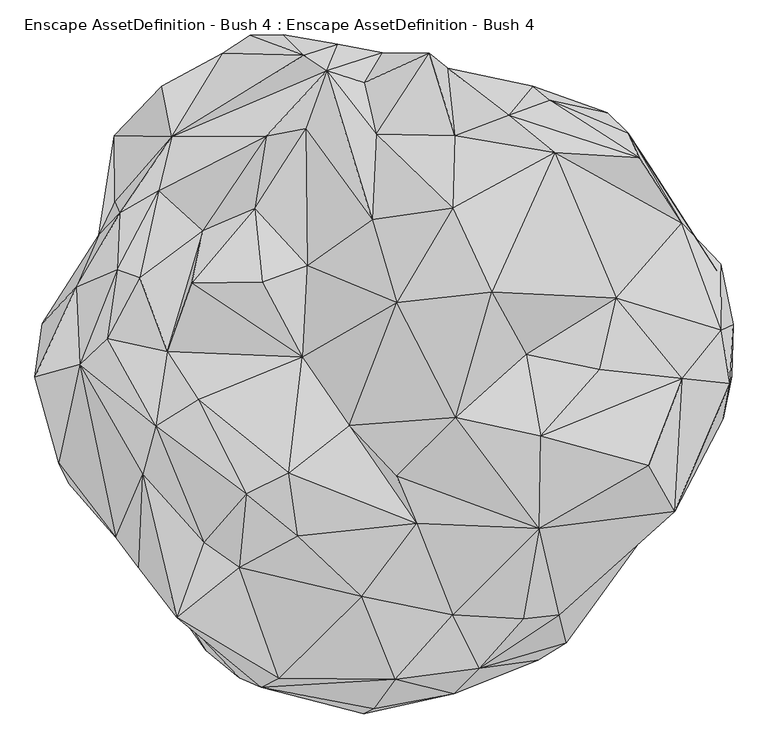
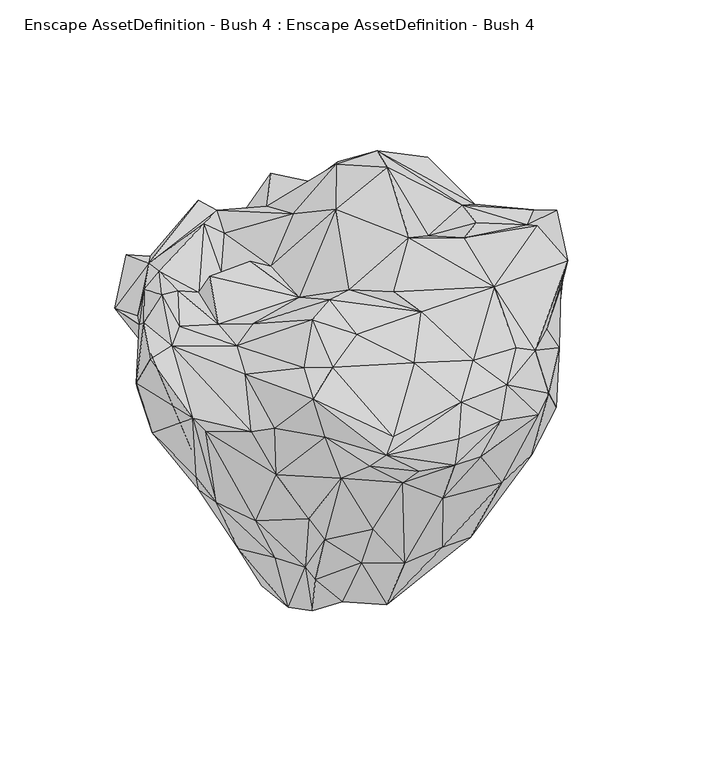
"""IFC4 building model written with IfcOpenShell, lengths in millimetres: geographic element geometry, Enscape AssetDefinition - Bush 4 : Enscape AssetDefinition - Bush 4."""

from ifc_helpers import new_model, si_unit, origin, place, context, project, spatial, faceted_brep, source, transform, mapped, element, save


def enscape_assetdefinition_bush_4_enscape_assetdefinition_bush_55d6cc23(model_context):
    return source(origin(), model_context, "Body", "Brep", [
        faceted_brep([(249.7012466, -47.8998907, -1.47e-05), (75.7104307, -78.2440156, -1.47e-05), (13.2852579, 74.399434, 1.47e-05), (-22.8581857, -154.6240598, -2.93e-05), (-9.1239065, -248.4378666, -4.4e-05), (216.8137878, -109.4588116, -1.47e-05), (110.4206145, -153.7600756, -2.93e-05), (-96.674636, -183.4131777, -2.93e-05), (-68.2089403, -40.5485146, 0.0), (-216.8878913, -260.3193223, 154.9056172), (-177.7376682, -179.2960763, -2.93e-05), (-110.0083366, -300.7731736, 192.5630718), (-221.1129218, -137.6040578, -2.93e-05), (-140.9715265, -33.8488668, 0.0), (-117.0394868, 58.2893528, 1.47e-05), (-243.2268411, -257.8569353, 199.26624), (-244.5471138, -355.0438285, 340.9818709), (-352.0463109, -204.7976404, 343.411833), (-283.4645808, -181.1039895, 195.6373006), (-307.5408638, -385.3701651, 444.544971), (-261.6184354, -465.4554427, 596.137464), (-137.951687, -405.3048193, 364.872396), (-362.6985252, -322.7013648, 555.4052591), (-485.6891036, -192.2846884, 649.9681473), (-408.755362, -111.2337261, 362.598151), (-301.6861081, -32.4014053, 139.1550153), (-441.462934, -70.6571788, 422.9195416), (-413.2783413, -32.4212238, 352.7278006), (-502.6498437, -158.5115492, 672.7871299), (-409.067452, -280.7476223, 674.7498512), (-467.7112997, 3.3616144, 778.0143619), (-541.2862301, -17.8256724, 776.5508294), (-529.4156075, 69.8261186, 648.3075619), (-518.5285211, 10.6077809, 532.9429507), (-431.3234687, 21.0538935, 415.5592024), (-510.1336837, 99.3957669, 610.5266809), (-436.4264309, 215.3629512, 701.3680339), (-473.2005894, 129.6907812, 772.7267146), (-402.2656679, 251.209408, 774.1734982), (-406.7312777, 158.2396775, 815.7094121), (-422.7682352, 45.3319028, 795.4221964), (-338.0852342, 288.1664932, 781.6703916), (-369.89218, 145.1581866, 821.5501904), (-410.2917314, 269.569844, 686.0158443), (-317.0852959, 376.2971163, 744.9555993), (-162.3737961, 377.4325848, 807.0727587), (-266.0240531, 222.158432, 733.9607477), (-324.8919845, 24.1535529, 780.4806828), (-343.7824249, -97.792767, 795.9808707), (-284.268856, 136.4479512, 839.8782611), (-273.5314667, -54.5375794, 811.7516637), (-103.2625362, 14.8417586, 788.0381942), (-181.520775, 258.8017881, 740.9322262), (-168.8432246, 137.9482597, 843.8702822), (-95.5665112, 165.1381701, 787.1752381), (-97.5860283, 389.1052008, 749.6116161), (50.922513, 104.1637585, 941.321373), (11.558691, 240.8064008, 859.9621654), (-63.1116331, 484.75793, 747.898221), (17.4172372, 380.7020187, 795.2210903), (142.6527798, 259.3990862, 949.3951797), (-1.6163598, 465.1429355, 730.2061319), (104.7558933, 513.1582022, 781.8384171), (146.7050016, 378.1899512, 822.6047158), (207.0612013, 121.8952537, 1001.1965036), (310.1767004, 350.5488038, 875.7357001), (234.4316393, 411.1656547, 832.4884772), (134.805724, 488.9092147, 707.4571848), (27.842287, 514.2251849, 608.9165807), (148.1652707, 479.4480205, 635.5565786), (99.3910655, 447.9908645, 446.4448094), (-45.5756485, 528.0621648, 629.6664476), (274.0909755, 459.120363, 676.6089201), (156.6919684, 442.625314, 398.6602426), (-42.7433476, 485.1406515, 520.6104517), (64.9518296, 420.7440913, 300.2929986), (-134.3123317, 543.1135893, 624.9598861), (-101.2706906, 509.791851, 776.3174772), (-188.5095239, 542.6161885, 629.4730902), (-234.0287864, 513.3274794, 654.4637084), (-137.9674971, 481.5446436, 489.6768928), (-238.5014296, 463.2355869, 496.6593087), (-411.3628566, 378.4026504, 642.9916024), (-333.2255781, 459.0964317, 726.572156), (-344.9124992, 415.2090847, 587.2220993), (-374.0104139, 268.8305676, 560.7162714), (-303.7375212, 193.1373775, 296.9602942), (-275.8068442, 319.4408119, 377.5421679), (-383.492738, 166.7087525, 502.4257302), (-357.1228981, 114.0431911, 335.180819), (-298.7746, 89.3563405, 181.9819212), (-276.6332626, 165.7898575, 172.7817953), (-222.2670764, 206.30835, 168.3892757), (-156.2236547, 132.1213096, 1.47e-05), (-184.8100573, 68.4661716, 1.47e-05), (-231.1122268, -25.0050761, 0.0), (-77.7020454, 161.814034, 2.93e-05), (-162.8671736, 232.1591228, 186.149776), (-60.5296791, 299.4650006, 165.5132174), (19.2985982, 204.7265172, 2.93e-05), (147.220239, 57.6699004, 1.47e-05), (136.4837587, 172.4926382, 2.93e-05), (35.9041207, 318.1888759, 149.9965191), (142.144978, 315.0296807, 139.5622045), (-76.154381, 413.8813019, 345.1378644), (147.1663564, 408.5558653, 272.3887265), (245.8321452, 416.2890315, 355.5046916), (311.486274, 420.9689796, 445.0226724), (264.2081678, 354.2624116, 252.9120147), (396.0812688, 416.0768688, 614.4850254), (332.7625394, 338.5793269, 313.0447865), (489.8338318, 243.066743, 404.4048786), (302.2456765, 436.1422062, 734.0829968), (466.4714038, 327.0341456, 567.255199), (430.4548204, 382.3972046, 720.9878564), (448.0634332, 342.3459232, 813.6490583), (518.0643797, 235.0248694, 713.8050199), (575.769484, 157.1718305, 617.0681119), (581.6112161, 167.2822535, 712.4390006), (599.5469689, -16.7164356, 673.3302474), (602.1407247, 68.8345656, 702.3082376), (559.8933101, -24.6078242, 584.2912197), (525.5988836, 123.3215779, 440.187782), (583.019495, 59.5538802, 781.0977697), (596.9107151, -28.4130797, 827.9764652), (586.0998034, -85.4043961, 713.1645679), (518.9378858, -19.5585862, 806.3333631), (506.485343, -237.4575734, 835.9431624), (411.0811651, 111.5353033, 823.4447837), (463.9135599, -162.1123105, 909.2357755), (383.5827112, -5.3779967, 851.4155746), (286.9040668, -114.2977402, 907.1933627), (284.3503952, -265.9159899, 853.8768291), (148.264721, -84.1111392, 937.9616976), (263.4233236, 19.5576772, 840.4350281), (51.5789203, -179.5147806, 868.5977459), (-26.5006162, -97.0991105, 851.429224), (-125.556618, -174.342677, 903.339684), (83.7293491, -257.5952113, 845.6574082), (143.0804729, -407.1065784, 770.2202201), (-5.7382691, -377.1381974, 796.8831062), (-110.6351614, -277.9411972, 857.6966524), (258.3949268, -414.1578376, 771.5902328), (317.4181283, -407.0348144, 739.9994135), (186.7628843, -494.6723282, 735.4964018), (48.525881, -512.8079057, 742.182672), (415.3490663, -293.2002842, 698.7659931), (329.0174007, -453.120023, 634.7606182), (470.7190096, -258.4481835, 602.4687886), (528.66745, -165.7672524, 704.9595118), (463.8591707, -256.3208342, 426.492393), (530.2629471, -154.3899179, 632.4030161), (446.4500844, -93.6677679, 333.463639), (442.7680373, -232.4303687, 359.8954678), (362.5501394, -313.1501675, 356.3767374), (481.5766215, 1.1095892, 328.1228542), (350.258112, -144.4646567, 198.4770745), (348.7334549, -37.9798226, 168.4909016), (314.997077, -210.2192342, 159.5424712), (210.1700455, -277.9615819, 142.4063593), (218.5247988, -414.5348668, 384.2342198), (167.1922803, -161.7946029, -2.93e-05), (79.4263482, -366.6649163, 212.7806246), (-22.6799268, -360.8779311, 196.517989), (16.7881958, -477.2891402, 446.7586279), (-106.3996628, -495.4598546, 547.339201), (-2.8396444, -569.6632862, 607.3455215), (82.1787864, -550.218761, 591.7828083), (-206.9517076, -510.1855993, 640.7649517), (-90.7147229, -545.9355116, 607.1196198), (-285.520941, -428.0915856, 704.2143941), (-170.6475914, -526.0014534, 669.8105335), (-309.0732992, -411.2302363, 815.4549599), (13.5437809, -561.4446402, 676.8163443), (-142.1420276, -511.4495158, 706.1829567), (-371.3049293, -330.5592835, 701.5397549), (-365.0728166, -177.5461286, 766.9745088), (-265.144676, -288.1494462, 819.2697167), (-206.7126632, -329.3873966, 824.9031901), (-194.9341595, -209.2480063, 890.1245594), (145.0322866, -536.5879536, 668.8601375), (282.6044559, -481.5255105, 604.9811244), (275.0080526, 46.2061875, 1.47e-05), (374.7374117, 12.8885778, 161.1012518), (259.4012022, 103.5876572, 1.47e-05), (305.8385253, 113.4447157, 106.0761586), (298.7926602, 191.4120913, 90.7696709), (441.8843389, 71.2231174, 293.1610048), (404.8205912, 175.4040271, 268.0723667), (224.1515219, 298.8797724, 115.2066514)], [[[0, 1, 2]], [[3, 1, 4]], [[1, 5, 6]], [[1, 0, 5]], [[1, 6, 4]], [[1, 3, 2]], [[7, 3, 4]], [[2, 3, 8]], [[7, 8, 3]], [[9, 10, 7]], [[11, 9, 7]], [[7, 4, 11]], [[8, 7, 10]], [[8, 10, 12]], [[8, 13, 14]], [[14, 2, 8]], [[13, 8, 12]], [[15, 12, 10]], [[10, 9, 15]], [[16, 9, 11]], [[9, 16, 15]], [[17, 18, 15]], [[15, 18, 12]], [[19, 17, 15]], [[15, 16, 19]], [[16, 20, 19]], [[16, 21, 20]], [[21, 16, 11]], [[20, 22, 19]], [[17, 19, 22]], [[17, 22, 23]], [[17, 23, 24]], [[24, 18, 17]], [[18, 25, 12]], [[25, 18, 24]], [[26, 27, 24]], [[24, 27, 25]], [[28, 26, 24]], [[23, 28, 24]], [[28, 23, 29]], [[23, 22, 29]], [[28, 30, 31]], [[32, 33, 28]], [[33, 26, 28]], [[29, 30, 28]], [[31, 32, 28]], [[33, 27, 26]], [[34, 25, 27]], [[27, 33, 34]], [[33, 32, 35]], [[34, 33, 35]], [[36, 35, 32]], [[37, 36, 32]], [[37, 32, 31]], [[30, 37, 31]], [[38, 37, 39]], [[36, 37, 38]], [[39, 37, 30]], [[39, 30, 40]], [[41, 39, 42]], [[41, 38, 39]], [[42, 39, 40]], [[36, 38, 43]], [[44, 38, 41]], [[43, 38, 44]], [[45, 44, 41]], [[45, 41, 46]], [[46, 41, 42]], [[42, 47, 46]], [[40, 47, 42]], [[48, 47, 40]], [[30, 48, 40]], [[47, 49, 46]], [[47, 48, 50]], [[50, 51, 47]], [[47, 51, 49]], [[49, 52, 46]], [[52, 45, 46]], [[53, 52, 49]], [[51, 53, 49]], [[53, 54, 52]], [[55, 52, 54]], [[55, 45, 52]], [[51, 54, 53]], [[54, 51, 56]], [[54, 57, 55]], [[56, 57, 54]], [[45, 55, 58]], [[58, 55, 57]], [[58, 57, 59]], [[56, 60, 57]], [[59, 57, 60]], [[61, 58, 59]], [[62, 59, 63]], [[63, 59, 60]], [[62, 61, 59]], [[56, 64, 60]], [[64, 65, 60]], [[60, 65, 63]], [[63, 66, 67]], [[66, 63, 65]], [[67, 62, 63]], [[61, 62, 68]], [[68, 62, 67]], [[58, 61, 68]], [[68, 69, 70]], [[71, 68, 70]], [[71, 58, 68]], [[67, 69, 68]], [[72, 69, 67]], [[66, 72, 67]], [[73, 69, 72]], [[73, 70, 69]], [[71, 70, 74]], [[74, 70, 75]], [[70, 73, 75]], [[71, 74, 76]], [[71, 76, 77]], [[58, 71, 77]], [[44, 58, 77]], [[44, 45, 58]], [[76, 78, 77]], [[77, 78, 79]], [[79, 44, 77]], [[78, 76, 80]], [[80, 76, 74]], [[78, 81, 79]], [[78, 80, 81]], [[82, 83, 79]], [[84, 79, 81]], [[79, 83, 44]], [[84, 82, 79]], [[83, 82, 44]], [[44, 82, 43]], [[85, 82, 84]], [[82, 85, 36]], [[43, 82, 36]], [[86, 84, 87]], [[86, 85, 84]], [[81, 87, 84]], [[85, 86, 88]], [[36, 85, 88]], [[35, 36, 88]], [[89, 34, 88]], [[34, 35, 88]], [[88, 86, 89]], [[90, 89, 86]], [[86, 87, 91]], [[91, 90, 86]], [[92, 87, 81]], [[91, 87, 92]], [[91, 92, 93]], [[90, 91, 93]], [[90, 25, 89]], [[94, 90, 93]], [[25, 90, 94]], [[89, 25, 34]], [[25, 94, 95]], [[95, 12, 25]], [[94, 14, 13]], [[94, 13, 95]], [[94, 93, 14]], [[96, 14, 93]], [[92, 96, 93]], [[2, 14, 96]], [[97, 96, 92]], [[98, 99, 96]], [[2, 96, 99]], [[96, 97, 98]], [[100, 0, 2]], [[101, 100, 2]], [[101, 2, 99]], [[98, 102, 99]], [[99, 102, 103]], [[103, 101, 99]], [[104, 98, 97]], [[98, 104, 102]], [[104, 75, 102]], [[102, 75, 103]], [[104, 97, 81]], [[104, 81, 80]], [[104, 80, 74]], [[75, 104, 74]], [[73, 105, 75]], [[75, 105, 103]], [[105, 73, 106]], [[105, 106, 103]], [[107, 73, 72]], [[106, 73, 107]], [[106, 108, 103]], [[108, 106, 107]], [[72, 109, 107]], [[110, 108, 107]], [[107, 111, 110]], [[109, 111, 107]], [[72, 112, 109]], [[112, 72, 66]], [[113, 111, 109]], [[114, 113, 109]], [[109, 112, 114]], [[66, 115, 112]], [[114, 112, 115]], [[66, 65, 115]], [[116, 114, 115]], [[115, 65, 116]], [[117, 114, 116]], [[113, 114, 117]], [[113, 117, 111]], [[116, 118, 117]], [[119, 117, 120]], [[119, 121, 117]], [[117, 118, 120]], [[121, 122, 117]], [[117, 122, 111]], [[118, 123, 120]], [[118, 116, 123]], [[120, 123, 124]], [[124, 119, 120]], [[119, 125, 121]], [[125, 119, 124]], [[123, 126, 124]], [[126, 127, 124]], [[127, 125, 124]], [[116, 128, 123]], [[123, 128, 126]], [[129, 127, 126]], [[126, 130, 131]], [[130, 126, 128]], [[131, 129, 126]], [[129, 132, 127]], [[132, 129, 131]], [[133, 131, 134]], [[133, 132, 131]], [[134, 131, 130]], [[128, 134, 130]], [[134, 64, 133]], [[128, 64, 134]], [[64, 56, 133]], [[133, 135, 132]], [[135, 133, 136]], [[133, 56, 136]], [[65, 64, 128]], [[65, 128, 116]], [[51, 137, 136]], [[136, 137, 138]], [[56, 51, 136]], [[135, 136, 138]], [[132, 135, 138]], [[139, 138, 140]], [[139, 132, 138]], [[138, 137, 141]], [[141, 140, 138]], [[142, 132, 139]], [[127, 132, 143]], [[143, 132, 142]], [[144, 142, 139]], [[139, 145, 144]], [[140, 145, 139]], [[143, 142, 144]], [[127, 143, 146]], [[143, 147, 148]], [[143, 148, 146]], [[147, 143, 144]], [[149, 125, 127]], [[149, 127, 146]], [[149, 146, 148]], [[147, 150, 148]], [[149, 148, 151]], [[151, 148, 150]], [[125, 149, 151]], [[121, 125, 151]], [[121, 151, 150]], [[152, 150, 153]], [[150, 147, 154]], [[154, 153, 150]], [[152, 121, 150]], [[155, 122, 121]], [[152, 155, 121]], [[152, 156, 157]], [[156, 152, 153]], [[155, 152, 157]], [[153, 154, 158]], [[158, 156, 153]], [[154, 159, 158]], [[159, 154, 160]], [[160, 154, 147]], [[5, 156, 158]], [[158, 159, 161]], [[161, 5, 158]], [[5, 157, 156]], [[0, 157, 5]], [[161, 6, 5]], [[6, 161, 159]], [[4, 6, 159]], [[160, 162, 159]], [[159, 162, 4]], [[4, 163, 11]], [[162, 163, 4]], [[163, 162, 164]], [[160, 164, 162]], [[21, 11, 163]], [[165, 163, 164]], [[165, 21, 163]], [[166, 165, 164]], [[167, 166, 164]], [[164, 160, 167]], [[21, 165, 20]], [[168, 20, 165]], [[168, 165, 169]], [[169, 165, 166]], [[20, 168, 170]], [[20, 170, 22]], [[168, 169, 171]], [[170, 168, 171]], [[171, 169, 166]], [[170, 171, 172]], [[173, 145, 171]], [[172, 171, 174]], [[166, 173, 171]], [[171, 145, 174]], [[170, 172, 175]], [[22, 170, 175]], [[175, 29, 22]], [[172, 176, 175]], [[175, 176, 29]], [[29, 176, 30]], [[176, 172, 177]], [[176, 48, 30]], [[48, 176, 177]], [[177, 172, 178]], [[177, 179, 48]], [[178, 179, 177]], [[179, 50, 48]], [[141, 137, 179]], [[137, 50, 179]], [[178, 141, 179]], [[140, 141, 178]], [[140, 178, 174]], [[178, 172, 174]], [[145, 140, 174]], [[173, 180, 145]], [[145, 180, 144]], [[180, 173, 166]], [[167, 181, 180]], [[180, 181, 144]], [[167, 180, 166]], [[181, 147, 144]], [[167, 160, 181]], [[181, 160, 147]], [[51, 50, 137]], [[100, 182, 0]], [[183, 157, 0]], [[182, 183, 0]], [[182, 184, 185]], [[182, 185, 183]], [[182, 100, 184]], [[184, 100, 101]], [[101, 186, 184]], [[185, 184, 186]], [[185, 187, 183]], [[188, 187, 185]], [[188, 185, 186]], [[155, 157, 183]], [[187, 155, 183]], [[122, 155, 187]], [[187, 188, 122]], [[111, 188, 110]], [[110, 188, 186]], [[122, 188, 111]], [[101, 189, 186]], [[186, 189, 110]], [[189, 101, 103]], [[189, 108, 110]], [[103, 108, 189]], [[97, 92, 81]], [[95, 13, 12]]]),
    ])


if __name__ == "__main__":
    model = new_model("IFC4")
    model_context = context("Model", 3, world=origin())
    ifc_project = project(units=[si_unit("LENGTHUNIT", "METRE", prefix="MILLI")], contexts=[model_context])
    site = spatial("IfcSite", under=ifc_project)
    building = spatial("IfcBuilding", under=site)
    placement = place(None, origin())
    enscape_assetdefinition_bush_4_enscape_assetdefinition_bush_shape = enscape_assetdefinition_bush_4_enscape_assetdefinition_bush_55d6cc23(model_context)
    element("IfcGeographicElement", 1, ObjectType="Enscape AssetDefinition - Bush 4 : Enscape AssetDefinition - Bush 4", at=placement, inside=building, context=model_context, shape_type="MappedRepresentation", body=[
        mapped(enscape_assetdefinition_bush_4_enscape_assetdefinition_bush_shape, transform((0.0, 0.0, 0.0), x_axis=(1.0, 0.0, 0.0), y_axis=(0.0, 1.0, 0.0), z_axis=(0.0, 0.0, 1.0))),
    ])
    save(model, "model.ifc")
